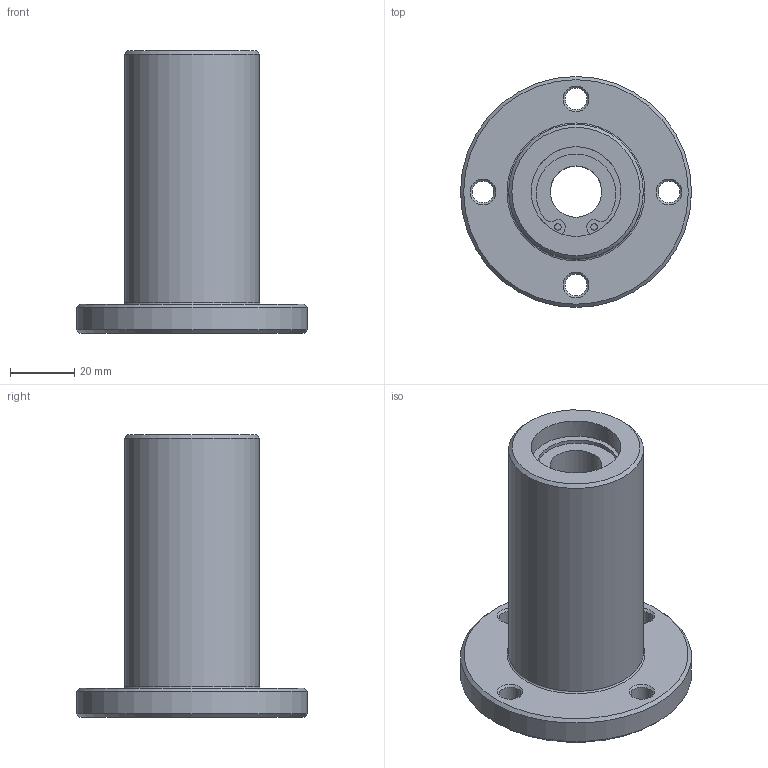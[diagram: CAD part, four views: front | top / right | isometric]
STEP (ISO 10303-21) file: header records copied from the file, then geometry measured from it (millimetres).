
FILE_DESCRIPTION(('STEP AP203'),'1');
FILE_NAME('//192.168.1.1/share/s-4 技術開発/s-4-4_CAD/s-4-4-3_見直し済み/009 修正済み/LCFD-A/LCFD-A_TOP/LCFD-16AVUU.step','2022-02-04T05:54:41',(' '),(' '),'Spatial InterOp 3D',' ',' ');
FILE_SCHEMA(('CONFIG_CONTROL_DESIGN'));
Length unit declared in the file: millimetre
Products named in the file (1): 1
Bounding box: 72 x 72 x 88 mm (x, y, z)
Volume: 120585.6 mm3; surface area: 25263.9 mm2
Topology: 1 solids, 1 shells, 56 faces, 134 edges, 88 vertices
Faces by surface type: cylinder 28, plane 16, cone 11, torus 1
Full cylindrical faces by diameter (mm): 2 x4, 6.75 x4, 16 x1, 28 x2, 42 x1, 44.3 x1, 72 x1
Entity records: 1500 total; most frequent: DIRECTION 282, CARTESIAN_POINT 233, ORIENTED_EDGE 196, AXIS2_PLACEMENT_3D 127, EDGE_LOOP 100, EDGE_CURVE 98, VERTEX_POINT 78, FACE_OUTER_BOUND 71
